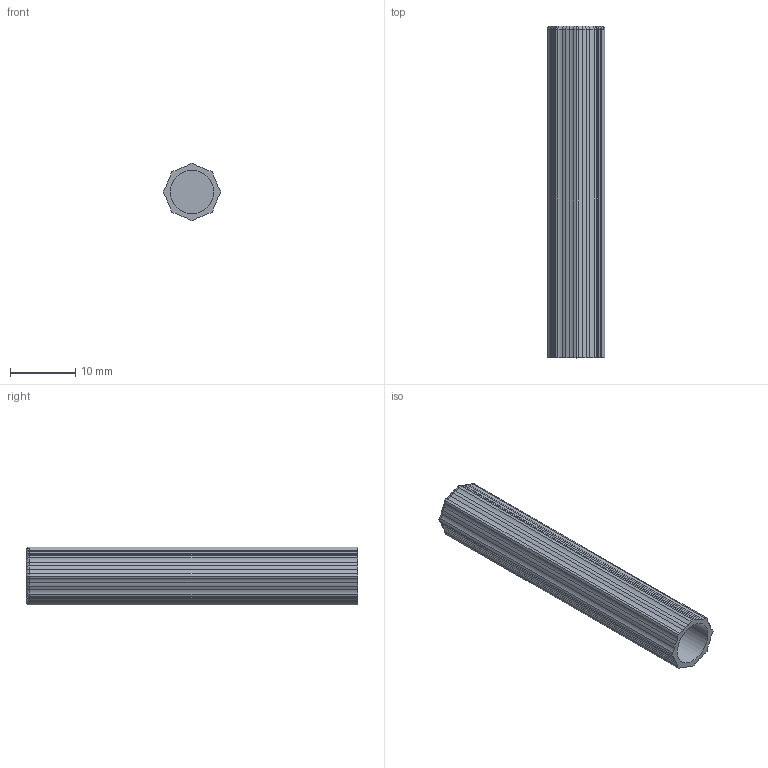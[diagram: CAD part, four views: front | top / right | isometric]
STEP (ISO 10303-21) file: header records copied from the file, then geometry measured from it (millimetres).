
FILE_DESCRIPTION(/* description */ (''),/* implementation_level */ '2;1');
FILE_NAME(/* name */ 'D:\Downloads\Project-ButWhatAbout-ECM-9x19-Barrel-DIY-V1-Package (3)\Revised Components\asdf\ECM CAD\STEP\Chambering Insulator Inch (0.250in).stp',/* time_stamp */ '2021-02-15T01:56:46-06:00',/* author */ ('johne'),/* organization */ (''),/* preprocessor_version */ 'ST-DEVELOPER v18',/* originating_system */ 'Autodesk Inventor 2020',/* authorisation */ '');
FILE_SCHEMA (('AUTOMOTIVE_DESIGN { 1 0 10303 214 3 1 1 }'));
Length unit declared in the file: inch
Products named in the file (1): Chambering Insulator 250in rod
Bounding box: 8.82 x 50.8 x 8.82 mm (x, y, z)
Volume: 1049.3 mm3; surface area: 2493.3 mm2
Topology: 1 solids, 1 shells, 100 faces, 260 edges, 163 vertices
Faces by surface type: cylinder 49, torus 32, plane 19
Full cylindrical faces by diameter (mm): 6.629 x1
Entity records: 3402 total; most frequent: CARTESIAN_POINT 852, DIRECTION 561, ORIENTED_EDGE 520, EDGE_CURVE 260, AXIS2_PLACEMENT_3D 224, VERTEX_POINT 163, CIRCLE 115, LINE 113
